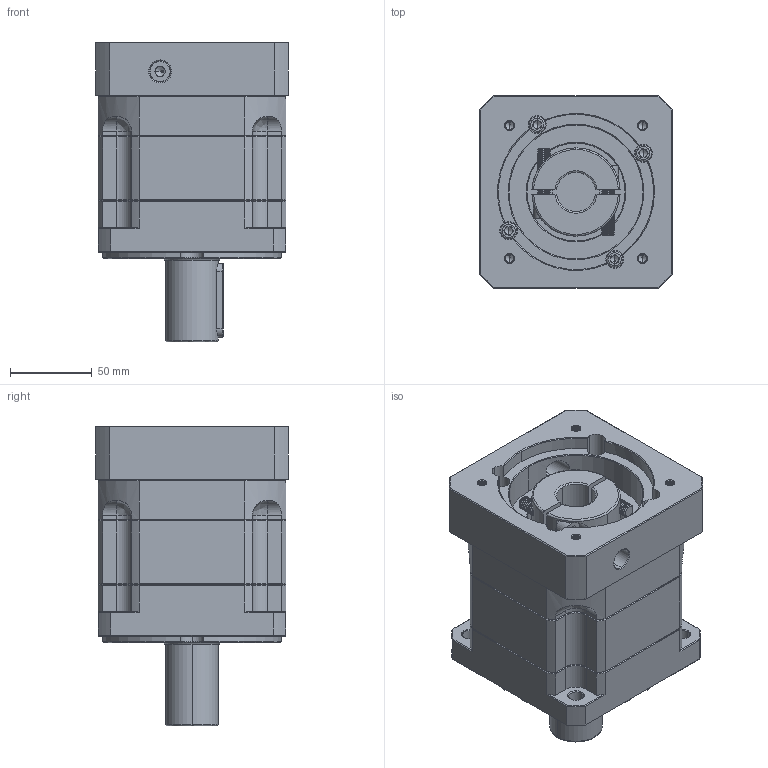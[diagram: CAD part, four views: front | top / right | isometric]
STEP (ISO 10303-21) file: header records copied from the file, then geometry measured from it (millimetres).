
FILE_DESCRIPTION (( 'STEP AP214' ), '1' );
FILE_NAME ('ZB115A-D32-L1-P2-24-95-115-M6.step', '2023-08-26T06:29:21', ( '' ), ( '' ), 'SwSTEP 2.0', 'SolidWorks 2016', '' );
FILE_SCHEMA (( 'AUTOMOTIVE_DESIGN' ));
Length unit declared in the file: millimetre
Products named in the file (1): ZB115A-D32-L1-P2-24-95-115-M6
Bounding box: 118 x 118 x 183.5 mm (x, y, z)
Volume: 1479678.9 mm3; surface area: 162395.3 mm2
Topology: 6 solids, 6 shells, 2399 faces, 6305 edges, 4002 vertices
Faces by surface type: plane 1144, cylinder 440, bspline 423, cone 372, torus 20
Entity records: 129110 total; most frequent: CARTESIAN_POINT 47098, ORIENTED_EDGE 12542, DIRECTION 9961, EDGE_CURVE 6271, VERTEX_POINT 4002, LINE 3993, VECTOR 3993, AXIS2_PLACEMENT_3D 2984
